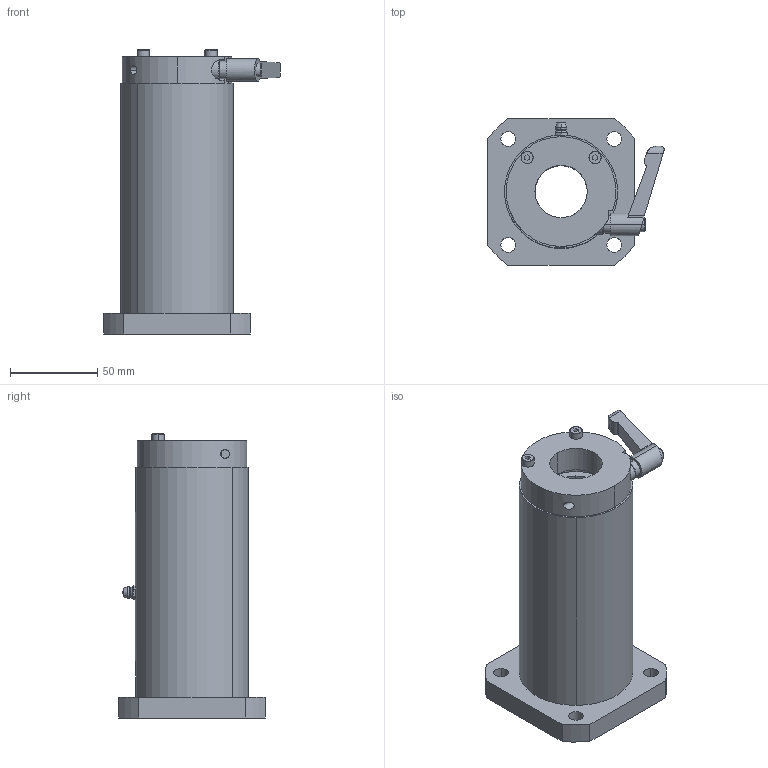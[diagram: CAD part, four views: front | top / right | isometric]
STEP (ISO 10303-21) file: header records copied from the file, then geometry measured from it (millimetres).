
FILE_DESCRIPTION (( 'STEP AP214' ), '1' );
FILE_NAME ('LFWK30-OH-C.STEP', '2023-06-27T02:11:50', ( '' ), ( '' ), 'SwSTEP 2.0', 'SolidWorks 2019', '' );
FILE_SCHEMA (( 'AUTOMOTIVE_DESIGN' ));
Length unit declared in the file: millimetre
Products named in the file (3): LFWK30-OH-C; LFWK30-OH; “ÁSCK3015CO-S4.5
Assembly tree (2 placements, depth 2):
  LFWK30-OH-C
    LFWK30-OH
    “ÁSCK3015CO-S4.5
Bounding box: 101.1 x 84 x 163 mm (x, y, z)
Volume: 449172.9 mm3; surface area: 80624.9 mm2
Topology: 3 solids, 9 shells, 234 faces, 591 edges, 373 vertices
Faces by surface type: cylinder 84, plane 71, bspline 47, cone 20, torus 8, sphere 4
Entity records: 10362 total; most frequent: CARTESIAN_POINT 2289, DIRECTION 1223, ORIENTED_EDGE 1178, EDGE_CURVE 589, AXIS2_PLACEMENT_3D 508, VERTEX_POINT 372, CIRCLE 316, EDGE_LOOP 281
